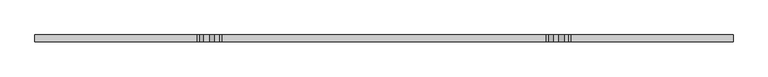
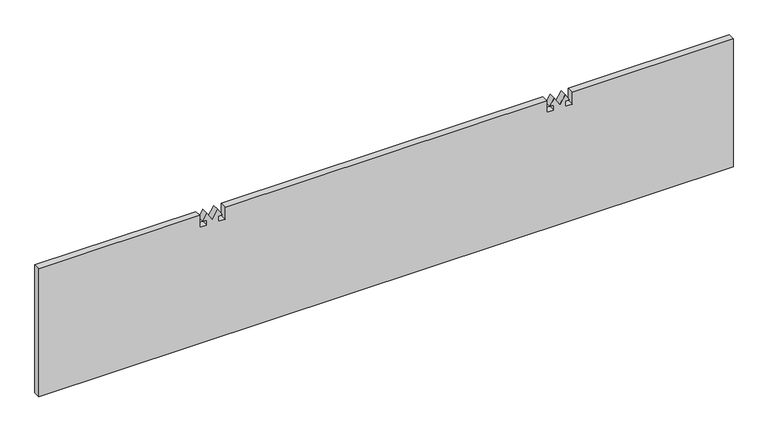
"""IFC4 building model written with IfcOpenShell, lengths in millimetres: proxy geometry, instalación_stratus 7.3dm."""

from ifc_helpers import new_model, si_unit, frame, origin, place, context, project, spatial, polyline, outline, extrude, source, transform, mapped, element, save


def generic_models_789b4434(model_context):
    return source(origin(), model_context, "Body", "SweptSolid", [
        extrude(outline(polyline([(-42.5638653, 291.811158), (-42.5638653, 279.553481), (-20.65, 279.553481), (-20.65, 0.0), (-255.6, 0.0), (-255.6, 1206.5), (-20.65, 1206.5), (-20.65, 926.946519), (-42.5638653, 926.946519), (-42.5638653, 914.688842), (-33.2622966, 914.688842), (-33.2622966, 922.0592541), (-20.65, 914.42236), (-36.4174225, 904.875), (-20.65, 895.32764), (-33.2622966, 887.6907459), (-33.2622966, 895.061158), (-42.5638653, 895.061158), (-42.5638653, 882.803481), (-20.65, 882.803481), (-20.65, 323.696519), (-42.5638653, 323.696519), (-42.5638653, 311.438842), (-33.2622966, 311.438842), (-33.2622966, 318.8092541), (-20.65, 311.17236), (-36.4174225, 301.625), (-20.65, 292.07764), (-33.2622966, 284.4407459), (-33.2622966, 291.811158), (-42.5638653, 291.811158)])), frame((0.0, 808.5510804, 0.0), z_axis=(0.0, 1.0, 0.0), x_axis=(0.0, 0.0, 1.0)), (0.0, 0.0, 1.0), 12.0),
    ])


if __name__ == "__main__":
    model = new_model("IFC4")
    model_context = context("Model", 3, world=origin())
    ifc_project = project(units=[si_unit("LENGTHUNIT", "METRE", prefix="MILLI")], contexts=[model_context])
    site = spatial("IfcSite", under=ifc_project)
    building = spatial("IfcBuilding", under=site)
    placement = place(None, origin())
    generic_models_shape = generic_models_789b4434(model_context)
    element("IfcBuildingElementProxy", 1, Name="instalación_stratus 7.3dm", ObjectType="instalación_stratus 7.3dm", at=placement, inside=building, context=model_context, shape_type="MappedRepresentation", body=[
        mapped(generic_models_shape, transform((0.0, 0.0, 0.0), x_axis=(1.0, 0.0, 0.0), y_axis=(0.0, 1.0, 0.0), z_axis=(0.0, 0.0, 1.0))),
    ])
    save(model, "model.ifc")
